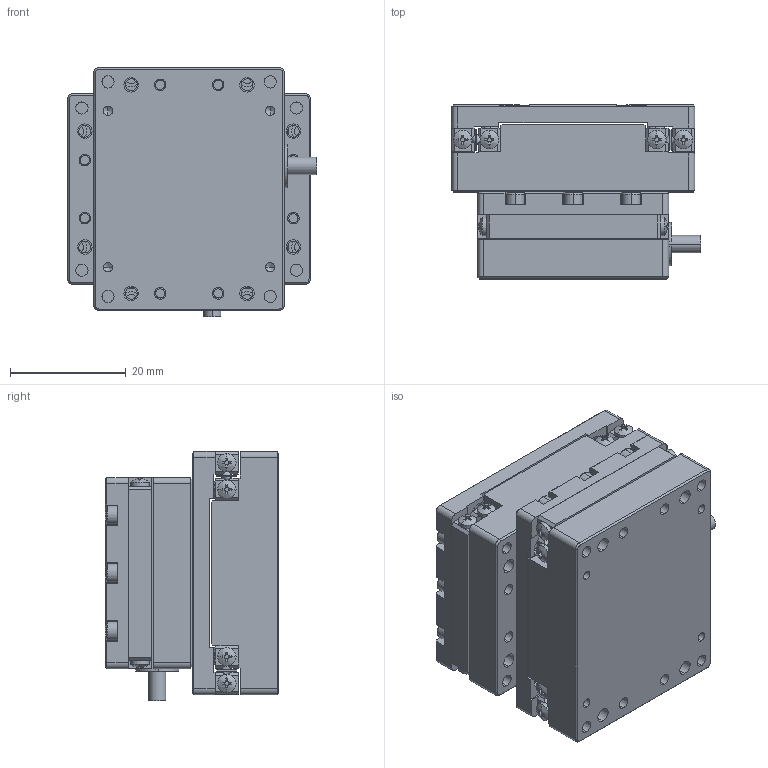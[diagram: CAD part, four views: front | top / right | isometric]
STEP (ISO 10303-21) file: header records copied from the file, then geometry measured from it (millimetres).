
FILE_DESCRIPTION (( 'STEP AP214' ), '1' );
FILE_NAME ('N56.XY10E-B1闭环二维直线压电马达3D图（25.08.01）.STEP', '2026-05-26T05:48:38', ( '微软用户' ), ( '微软中国' ), 'SwSTEP 2.0', 'SolidWorks 2016', '' );
FILE_SCHEMA (( 'AUTOMOTIVE_DESIGN' ));
Length unit declared in the file: millimetre
Products named in the file (1): N56.XY10E-B1闭环二维直线压电马达3D图（25.08.01）
Bounding box: 43 x 30 x 43 mm (x, y, z)
Volume: 29167.8 mm3; surface area: 27870.7 mm2
Topology: 88 solids, 88 shells, 2211 faces, 5524 edges, 3550 vertices
Faces by surface type: plane 1114, cylinder 858, cone 159, bspline 80
Entity records: 68115 total; most frequent: CARTESIAN_POINT 14018, DIRECTION 11226, ORIENTED_EDGE 10840, EDGE_CURVE 5420, AXIS2_PLACEMENT_3D 4134, VERTEX_POINT 3550, LINE 2958, VECTOR 2958
